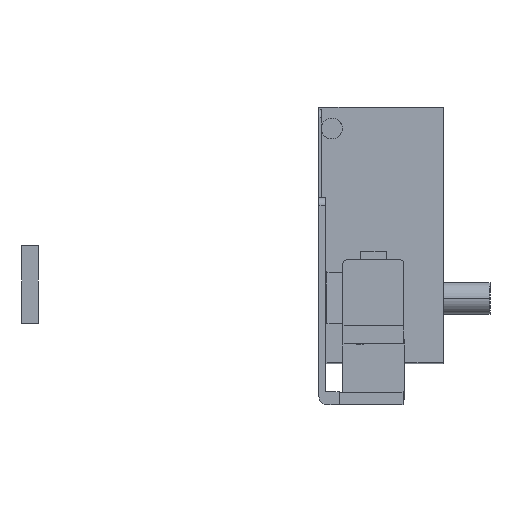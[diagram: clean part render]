
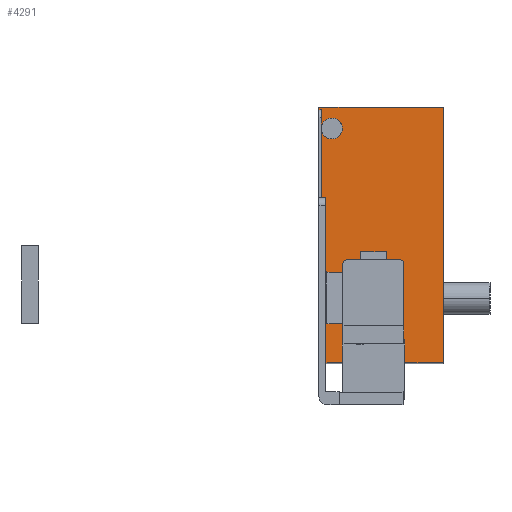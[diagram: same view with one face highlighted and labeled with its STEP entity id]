
A CAD part, front view. The second image highlights one B-rep face of the part: STEP entity #4291.
In plain terms, the highlighted planar face has unit normal (0, -1, 0.007).
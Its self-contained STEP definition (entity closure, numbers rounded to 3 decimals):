
#63 =( BOUNDED_CURVE ( )  B_SPLINE_CURVE ( 3, ( #3394, #3395, #3396, #3397 ),
 .UNSPECIFIED., .F., .T. ) 
 B_SPLINE_CURVE_WITH_KNOTS ( ( 4, 4 ),
 ( 0., 1.571 ),
 .UNSPECIFIED. ) 
 CURVE ( )  GEOMETRIC_REPRESENTATION_ITEM ( )  RATIONAL_B_SPLINE_CURVE ( ( 1., 0.805, 0.805, 1. ) ) 
 REPRESENTATION_ITEM ( '' )  );
#64 =( BOUNDED_CURVE ( )  B_SPLINE_CURVE ( 3, ( #3398, #3399, #3400, #3401 ),
 .UNSPECIFIED., .F., .F. ) 
 B_SPLINE_CURVE_WITH_KNOTS ( ( 4, 4 ),
 ( 1.571, 3.142 ),
 .UNSPECIFIED. ) 
 CURVE ( )  GEOMETRIC_REPRESENTATION_ITEM ( )  RATIONAL_B_SPLINE_CURVE ( ( 1., 0.805, 0.805, 1. ) ) 
 REPRESENTATION_ITEM ( '' )  );
#777 = LINE ( 'NONE', #5062, #778 ) ;
#778 = VECTOR ( 'NONE', #5061, 1000. ) ;
#837 = LINE ( 'NONE', #4979, #838 ) ;
#838 = VECTOR ( 'NONE', #4977, 1000. ) ;
#1035 = LINE ( 'NONE', #1410, #1036 ) ;
#1036 = VECTOR ( 'NONE', #1409, 1000. ) ;
#1044 = LINE ( 'NONE', #1391, #1046 ) ;
#1046 = VECTOR ( 'NONE', #1389, 1000. ) ;
#1389 = DIRECTION ( 'NONE',  ( 0., 0.007, 1. ) ) ;
#1391 = CARTESIAN_POINT ( 'NONE',  ( 7.25, 240.846, -16.232 ) ) ;
#1409 = DIRECTION ( 'NONE',  ( 0., 0.007, 1. ) ) ;
#1410 = CARTESIAN_POINT ( 'NONE',  ( 26.75, 240.846, -16.232 ) ) ;
#1494 = CARTESIAN_POINT ( 'NONE',  ( 7.25, 240.711, -36.442 ) ) ;
#1496 = CARTESIAN_POINT ( 'NONE',  ( 8.25, 240.747, -31.056 ) ) ;
#1553 = CARTESIAN_POINT ( 'NONE',  ( 7.25, 240.74, -32.056 ) ) ;
#1757 = LINE ( 'NONE', #3404, #1758 ) ;
#1758 = VECTOR ( 'NONE', #3405, 1000. ) ;
#1759 = LINE ( 'NONE', #3406, #1760 ) ;
#1760 = VECTOR ( 'NONE', #3407, 1000. ) ;
#1761 = LINE ( 'NONE', #3408, #1762 ) ;
#1762 = VECTOR ( 'NONE', #3409, 1000. ) ;
#1763 = LINE ( 'NONE', #3410, #1764 ) ;
#1764 = VECTOR ( 'NONE', #3411, 1000. ) ;
#1765 = LINE ( 'NONE', #3412, #1766 ) ;
#1766 = VECTOR ( 'NONE', #3413, 1000. ) ;
#1767 = LINE ( 'NONE', #3414, #1768 ) ;
#1768 = VECTOR ( 'NONE', #3415, 1000. ) ;
#1769 = LINE ( 'NONE', #3416, #1770 ) ;
#1770 = VECTOR ( 'NONE', #3417, 1000. ) ;
#1771 = LINE ( 'NONE', #3418, #1772 ) ;
#1772 = VECTOR ( 'NONE', #3419, 1000. ) ;
#1968 = FACE_OUTER_BOUND ( 'NONE', #4403, .T. ) ;
#2140 = EDGE_CURVE ( 'NONE', #4878, #5217, #777, .T. ) ;
#2171 = EDGE_CURVE ( 'NONE', #4933, #5173, #837, .T. ) ;
#2291 = EDGE_CURVE ( 'NONE', #5151, #4998, #1035, .T. ) ;
#2297 = EDGE_CURVE ( 'NONE', #5215, #5274, #1044, .T. ) ;
#2520 = EDGE_CURVE ( 'NONE', #4878, #4998, #63, .T. ) ;
#2521 = EDGE_CURVE ( 'NONE', #5274, #5217, #64, .T. ) ;
#2523 = EDGE_CURVE ( 'NONE', #5137, #5140, #1757, .T. ) ;
#2524 = EDGE_CURVE ( 'NONE', #5140, #5142, #1759, .T. ) ;
#2525 = EDGE_CURVE ( 'NONE', #5147, #5142, #1761, .T. ) ;
#2526 = EDGE_CURVE ( 'NONE', #5147, #5215, #1763, .T. ) ;
#2527 = EDGE_CURVE ( 'NONE', #5151, #4933, #1765, .T. ) ;
#2528 = EDGE_CURVE ( 'NONE', #5173, #5162, #1767, .T. ) ;
#2529 = EDGE_CURVE ( 'NONE', #5163, #5162, #1769, .T. ) ;
#2530 = EDGE_CURVE ( 'NONE', #5137, #5163, #1771, .T. ) ;
#2771 = AXIS2_PLACEMENT_3D ( 'NONE', #3790, #3791, #3792 ) ;
#3394 = CARTESIAN_POINT ( 'NONE',  ( 25.75, 240.747, -31.056 ) ) ;
#3395 = CARTESIAN_POINT ( 'NONE',  ( 26.336, 240.747, -31.056 ) ) ;
#3396 = CARTESIAN_POINT ( 'NONE',  ( 26.75, 240.744, -31.47 ) ) ;
#3397 = CARTESIAN_POINT ( 'NONE',  ( 26.75, 240.74, -32.056 ) ) ;
#3398 = CARTESIAN_POINT ( 'NONE',  ( 7.25, 240.74, -32.056 ) ) ;
#3399 = CARTESIAN_POINT ( 'NONE',  ( 7.25, 240.744, -31.47 ) ) ;
#3400 = CARTESIAN_POINT ( 'NONE',  ( 7.664, 240.747, -31.056 ) ) ;
#3401 = CARTESIAN_POINT ( 'NONE',  ( 8.25, 240.747, -31.056 ) ) ;
#3404 = CARTESIAN_POINT ( 'NONE',  ( 8., 240.645, -46.277 ) ) ;
#3405 = DIRECTION ( 'NONE',  ( 0., -0.007, -1. ) ) ;
#3406 = CARTESIAN_POINT ( 'NONE',  ( 2.5, 240.792, -24.277 ) ) ;
#3407 = DIRECTION ( 'NONE',  ( -1., 0., 0. ) ) ;
#3408 = CARTESIAN_POINT ( 'NONE',  ( 0., 240.645, -46.277 ) ) ;
#3409 = DIRECTION ( 'NONE',  ( 0., 0.007, 1. ) ) ;
#3410 = CARTESIAN_POINT ( 'NONE',  ( 7.25, 240.711, -36.442 ) ) ;
#3411 = DIRECTION ( 'NONE',  ( 1., 0., 0. ) ) ;
#3412 = CARTESIAN_POINT ( 'NONE',  ( 38.8, 240.711, -36.442 ) ) ;
#3413 = DIRECTION ( 'NONE',  ( 1., 0., 0. ) ) ;
#3414 = CARTESIAN_POINT ( 'NONE',  ( 38.8, 241.243, 43.078 ) ) ;
#3415 = DIRECTION ( 'NONE',  ( -1., 0., 0. ) ) ;
#3416 = CARTESIAN_POINT ( 'NONE',  ( 0., 240.645, -46.277 ) ) ;
#3417 = DIRECTION ( 'NONE',  ( 0., 0.007, 1. ) ) ;
#3418 = CARTESIAN_POINT ( 'NONE',  ( 2.5, 240.899, -8.278 ) ) ;
#3419 = DIRECTION ( 'NONE',  ( -1., 0., 0. ) ) ;
#3789 = PLANE ( 'NONE',  #2771 ) ;
#3790 = CARTESIAN_POINT ( 'NONE',  ( 38.8, 240.645, -46.277 ) ) ;
#3791 = DIRECTION ( 'NONE',  ( 0., -1., 0.007 ) ) ;
#3792 = DIRECTION ( 'NONE',  ( 0., 0.007, 1. ) ) ;
#4078 = CARTESIAN_POINT ( 'NONE',  ( 25.75, 240.747, -31.056 ) ) ;
#4109 = CARTESIAN_POINT ( 'NONE',  ( 38.8, 240.711, -36.442 ) ) ;
#4147 = CARTESIAN_POINT ( 'NONE',  ( 26.75, 240.74, -32.056 ) ) ;
#4166 = CARTESIAN_POINT ( 'NONE',  ( 8., 240.899, -8.278 ) ) ;
#4169 = CARTESIAN_POINT ( 'NONE',  ( 8., 240.792, -24.277 ) ) ;
#4171 = CARTESIAN_POINT ( 'NONE',  ( 0., 240.792, -24.277 ) ) ;
#4176 = CARTESIAN_POINT ( 'NONE',  ( 0., 240.711, -36.442 ) ) ;
#4180 = CARTESIAN_POINT ( 'NONE',  ( 26.75, 240.711, -36.442 ) ) ;
#4191 = CARTESIAN_POINT ( 'NONE',  ( 0., 241.243, 43.078 ) ) ;
#4192 = CARTESIAN_POINT ( 'NONE',  ( 0., 240.899, -8.278 ) ) ;
#4202 = CARTESIAN_POINT ( 'NONE',  ( 38.8, 241.243, 43.078 ) ) ;
#4291 = ADVANCED_FACE ( 'NONE', ( #1968 ), #3789, .T. ) ;
#4403 = EDGE_LOOP ( 'NONE', ( #4529, #4528, #4527, #4526, #4525, #4524, #4523, #4522, #4521, #4520, #4519, #4518, #4517, #4516 ) ) ;
#4516 = ORIENTED_EDGE ( 'NONE', *, *, #2530, .F. ) ;
#4517 = ORIENTED_EDGE ( 'NONE', *, *, #2529, .F. ) ;
#4518 = ORIENTED_EDGE ( 'NONE', *, *, #2528, .T. ) ;
#4519 = ORIENTED_EDGE ( 'NONE', *, *, #2171, .T. ) ;
#4520 = ORIENTED_EDGE ( 'NONE', *, *, #2527, .T. ) ;
#4521 = ORIENTED_EDGE ( 'NONE', *, *, #2291, .F. ) ;
#4522 = ORIENTED_EDGE ( 'NONE', *, *, #2520, .T. ) ;
#4523 = ORIENTED_EDGE ( 'NONE', *, *, #2140, .F. ) ;
#4524 = ORIENTED_EDGE ( 'NONE', *, *, #2521, .T. ) ;
#4525 = ORIENTED_EDGE ( 'NONE', *, *, #2297, .T. ) ;
#4526 = ORIENTED_EDGE ( 'NONE', *, *, #2526, .T. ) ;
#4527 = ORIENTED_EDGE ( 'NONE', *, *, #2525, .F. ) ;
#4528 = ORIENTED_EDGE ( 'NONE', *, *, #2524, .T. ) ;
#4529 = ORIENTED_EDGE ( 'NONE', *, *, #2523, .T. ) ;
#4878 = VERTEX_POINT ( 'NONE', #4078 ) ;
#4933 = VERTEX_POINT ( 'NONE', #4109 ) ;
#4977 = DIRECTION ( 'NONE',  ( 0., 0.007, 1. ) ) ;
#4979 = CARTESIAN_POINT ( 'NONE',  ( 38.8, 240.645, -46.277 ) ) ;
#4998 = VERTEX_POINT ( 'NONE', #4147 ) ;
#5061 = DIRECTION ( 'NONE',  ( -1., 0., 0. ) ) ;
#5062 = CARTESIAN_POINT ( 'NONE',  ( 26.75, 240.747, -31.056 ) ) ;
#5137 = VERTEX_POINT ( 'NONE', #4166 ) ;
#5140 = VERTEX_POINT ( 'NONE', #4169 ) ;
#5142 = VERTEX_POINT ( 'NONE', #4171 ) ;
#5147 = VERTEX_POINT ( 'NONE', #4176 ) ;
#5151 = VERTEX_POINT ( 'NONE', #4180 ) ;
#5162 = VERTEX_POINT ( 'NONE', #4191 ) ;
#5163 = VERTEX_POINT ( 'NONE', #4192 ) ;
#5173 = VERTEX_POINT ( 'NONE', #4202 ) ;
#5215 = VERTEX_POINT ( 'NONE', #1494 ) ;
#5217 = VERTEX_POINT ( 'NONE', #1496 ) ;
#5274 = VERTEX_POINT ( 'NONE', #1553 ) ;
